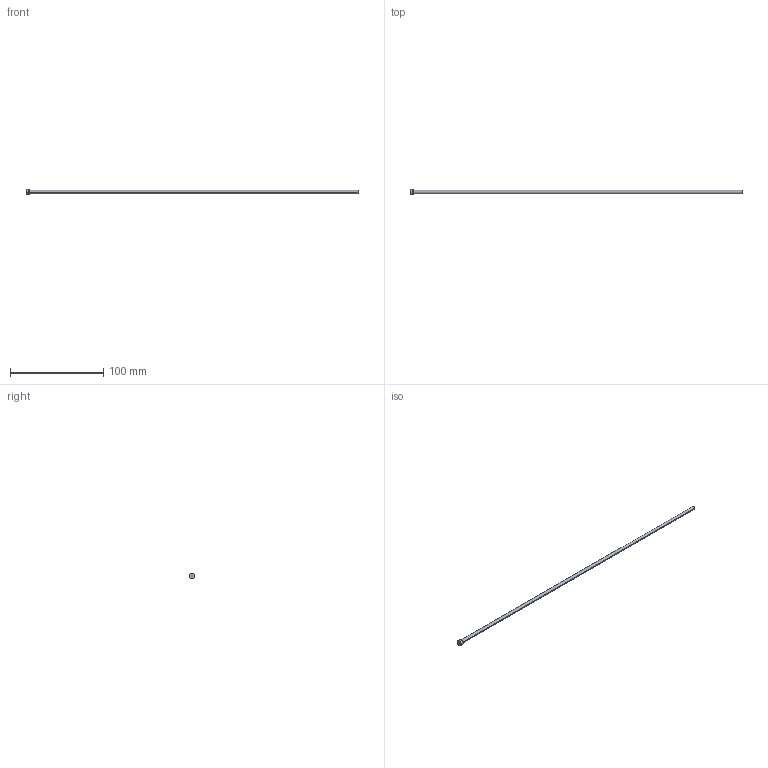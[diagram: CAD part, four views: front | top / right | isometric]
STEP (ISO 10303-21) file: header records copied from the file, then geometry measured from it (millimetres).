
FILE_DESCRIPTION (( 'STEP AP214' ), '1' );
FILE_NAME ('P10-14.STEP', '2020-03-11T17:37:49', ( '' ), ( '' ), 'SwSTEP 2.0', 'SolidWorks 2018', '' );
FILE_SCHEMA (( 'AUTOMOTIVE_DESIGN' ));
Length unit declared in the file: inch
Products named in the file (1): P10-14
Bounding box: 355.6 x 6.35 x 6.35 mm (x, y, z)
Volume: 3618.2 mm3; surface area: 4067.1 mm2
Topology: 1 solids, 1 shells, 13 faces, 24 edges, 14 vertices
Faces by surface type: cone 4, cylinder 4, plane 3, torus 2
Entity records: 366 total; most frequent: DIRECTION 68, CARTESIAN_POINT 52, ORIENTED_EDGE 48, AXIS2_PLACEMENT_3D 30, EDGE_CURVE 24, CIRCLE 16, VERTEX_POINT 14, EDGE_LOOP 14
